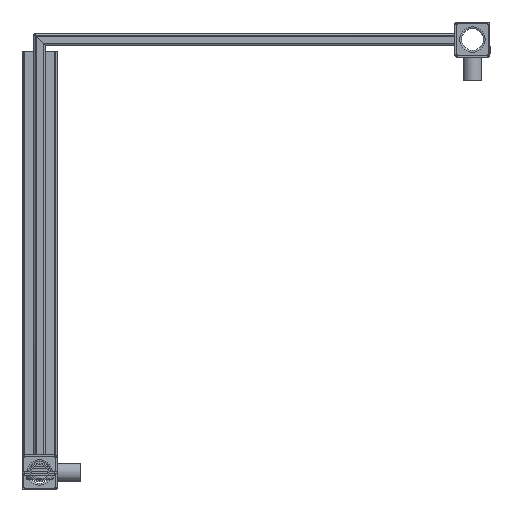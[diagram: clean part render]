
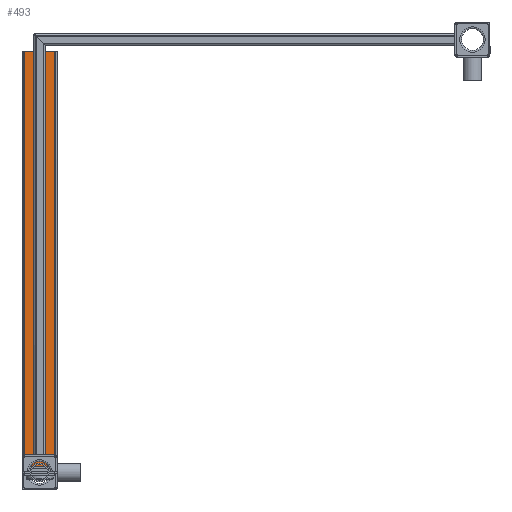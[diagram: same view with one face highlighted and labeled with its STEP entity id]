
A CAD part, front view. The second image highlights one B-rep face of the part: STEP entity #493.
In plain terms, the highlighted planar face has unit normal (0, -1, 0) as drawn and (0, 0, 1) by its records, which use the part's own axes.
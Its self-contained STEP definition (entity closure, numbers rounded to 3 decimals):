
#493 = ADVANCED_FACE( '', ( #1042 ), #1043, .T. );
#1042 = FACE_OUTER_BOUND( '', #1641, .T. );
#1043 = PLANE( '', #1642 );
#1641 = EDGE_LOOP( '', ( #3104, #3105, #3106, #3107 ) );
#1642 = AXIS2_PLACEMENT_3D( '', #3108, #3109, #3110 );
#3104 = ORIENTED_EDGE( '', *, *, #3764, .F. );
#3105 = ORIENTED_EDGE( '', *, *, #3751, .T. );
#3106 = ORIENTED_EDGE( '', *, *, #3581, .F. );
#3107 = ORIENTED_EDGE( '', *, *, #3782, .T. );
#3108 = CARTESIAN_POINT( '', ( 15., 389.28, 5. ) );
#3109 = DIRECTION( '', ( 0., 0., 1. ) );
#3110 = DIRECTION( '', ( 1., 0., 0. ) );
#3581 = EDGE_CURVE( '', #4347, #4330, #4349, .T. );
#3751 = EDGE_CURVE( '', #4613, #4330, #4615, .F. );
#3764 = EDGE_CURVE( '', #4613, #4634, #4635, .T. );
#3782 = EDGE_CURVE( '', #4347, #4634, #4663, .T. );
#4330 = VERTEX_POINT( '', #5359 );
#4347 = VERTEX_POINT( '', #5382 );
#4349 = LINE( '', #5384, #5385 );
#4613 = VERTEX_POINT( '', #5738 );
#4615 = LINE( '', #5740, #5741 );
#4634 = VERTEX_POINT( '', #5764 );
#4635 = LINE( '', #5765, #5766 );
#4663 = LINE( '', #5802, #5803 );
#5359 = CARTESIAN_POINT( '', ( 13., 380., 5. ) );
#5382 = CARTESIAN_POINT( '', ( -13., 380., 5. ) );
#5384 = CARTESIAN_POINT( '', ( -15., 380., 5. ) );
#5385 = VECTOR( '', #6419, 1000. );
#5738 = CARTESIAN_POINT( '', ( 13., 25., 5. ) );
#5740 = CARTESIAN_POINT( '', ( 13., 389.28, 5. ) );
#5741 = VECTOR( '', #6674, 1000. );
#5764 = CARTESIAN_POINT( '', ( -13., 25., 5. ) );
#5765 = CARTESIAN_POINT( '', ( 15., 25., 5. ) );
#5766 = VECTOR( '', #6691, 1000. );
#5802 = CARTESIAN_POINT( '', ( -13., 389.28, 5. ) );
#5803 = VECTOR( '', #6718, 1000. );
#6419 = DIRECTION( '', ( 1., 0., 0. ) );
#6674 = DIRECTION( '', ( 0., -1., 0. ) );
#6691 = DIRECTION( '', ( -1., 0., 0. ) );
#6718 = DIRECTION( '', ( 0., -1., 0. ) );
